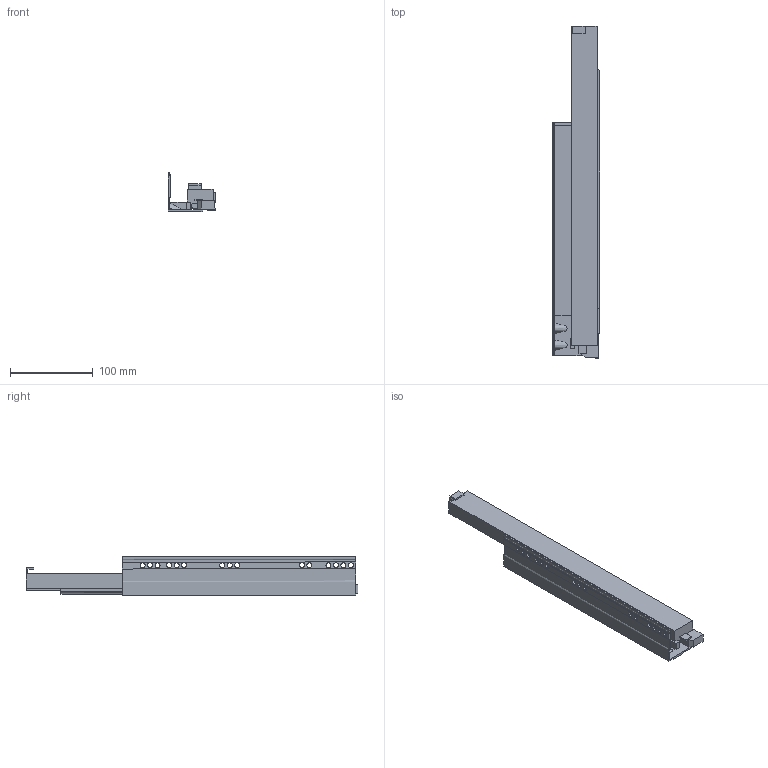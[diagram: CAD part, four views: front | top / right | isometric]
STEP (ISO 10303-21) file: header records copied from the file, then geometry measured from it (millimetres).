
FILE_DESCRIPTION (( 'STEP AP214' ), '1' );
FILE_NAME ('_IMOS_Dynapro_Softclose_D514_NL_400_LI.step', '2010-07-16T06:01:03', ( 'grass' ), ( '' ), 'SwSTEP 2.0', 'SolidWorks 2009', '' );
FILE_SCHEMA (( 'AUTOMOTIVE_DESIGN' ));
Length unit declared in the file: millimetre
Products named in the file (1): _IMOS_Dynapro_Softclose_D514_NL_400_LI
Bounding box: 57.08 x 400.07 x 47.86 mm (x, y, z)
Volume: 355293 mm3; surface area: 114932.6 mm2
Topology: 1 solids, 1 shells, 112 faces, 385 edges, 271 vertices
Faces by surface type: plane 75, cylinder 30, bspline 7
Entity records: 4981 total; most frequent: CARTESIAN_POINT 1483, ORIENTED_EDGE 762, DIRECTION 671, EDGE_CURVE 381, LINE 297, VECTOR 297, VERTEX_POINT 271, AXIS2_PLACEMENT_3D 187
